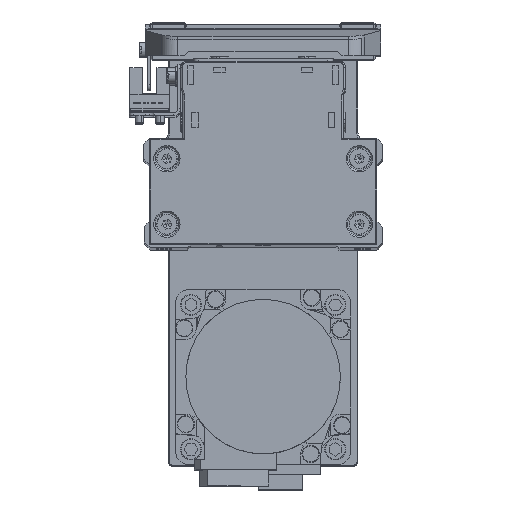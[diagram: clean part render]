
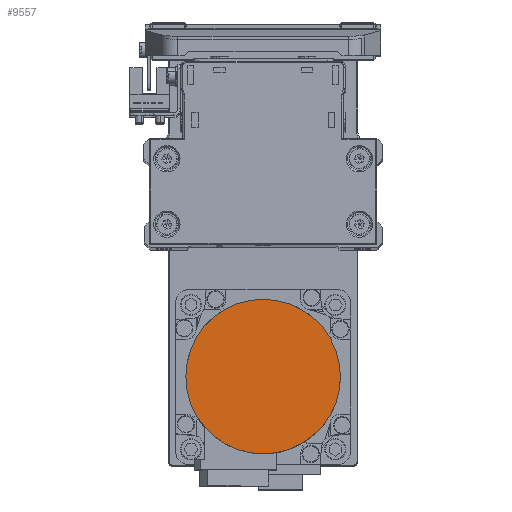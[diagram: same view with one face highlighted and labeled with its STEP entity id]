
A CAD part, top view. The second image highlights one B-rep face of the part: STEP entity #9557.
In plain terms, the highlighted planar face has unit normal (0, 0, 1) as drawn and (0, 0, -1) by its records, which use the part's own axes.
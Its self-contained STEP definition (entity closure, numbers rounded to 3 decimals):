
#569 = PLANE ( 'NONE',  #10976 ) ;
#3134 = DIRECTION ( 'NONE',  ( 1., 0., 0. ) ) ;
#3963 = AXIS2_PLACEMENT_3D ( 'NONE', #18752, #31260, #3134 ) ;
#7233 = DIRECTION ( 'NONE',  ( -1., 0., 0. ) ) ;
#9557 = ADVANCED_FACE ( 'NONE', ( #28686 ), #569, .F. ) ;
#10054 = EDGE_LOOP ( 'NONE', ( #17991, #33029 ) ) ;
#10552 = CIRCLE ( 'NONE', #33471, 26.5 ) ;
#10976 = AXIS2_PLACEMENT_3D ( 'NONE', #13092, #25593, #38120 ) ;
#13092 = CARTESIAN_POINT ( 'NONE',  ( 0., 0., -109.7 ) ) ;
#13777 = VERTEX_POINT ( 'NONE', #29407 ) ;
#16912 = VERTEX_POINT ( 'NONE', #26336 ) ;
#17991 = ORIENTED_EDGE ( 'NONE', *, *, #22732, .F. ) ;
#18752 = CARTESIAN_POINT ( 'NONE',  ( 0., 0., -109.7 ) ) ;
#21668 = CIRCLE ( 'NONE', #3963, 26.5 ) ;
#22569 = EDGE_CURVE ( 'NONE', #13777, #16912, #21668, .T. ) ;
#22732 = EDGE_CURVE ( 'NONE', #16912, #13777, #10552, .T. ) ;
#22826 = CARTESIAN_POINT ( 'NONE',  ( 0., 0., -109.7 ) ) ;
#25593 = DIRECTION ( 'NONE',  ( 0., 0., 1. ) ) ;
#26336 = CARTESIAN_POINT ( 'NONE',  ( -26.5, 0., -109.7 ) ) ;
#28686 = FACE_OUTER_BOUND ( 'NONE', #10054, .T. ) ;
#29407 = CARTESIAN_POINT ( 'NONE',  ( 26.5, 0., -109.7 ) ) ;
#31260 = DIRECTION ( 'NONE',  ( 0., 0., 1. ) ) ;
#33029 = ORIENTED_EDGE ( 'NONE', *, *, #22569, .F. ) ;
#33471 = AXIS2_PLACEMENT_3D ( 'NONE', #22826, #35340, #7233 ) ;
#35340 = DIRECTION ( 'NONE',  ( 0., 0., 1. ) ) ;
#38120 = DIRECTION ( 'NONE',  ( 1., 0., 0. ) ) ;
